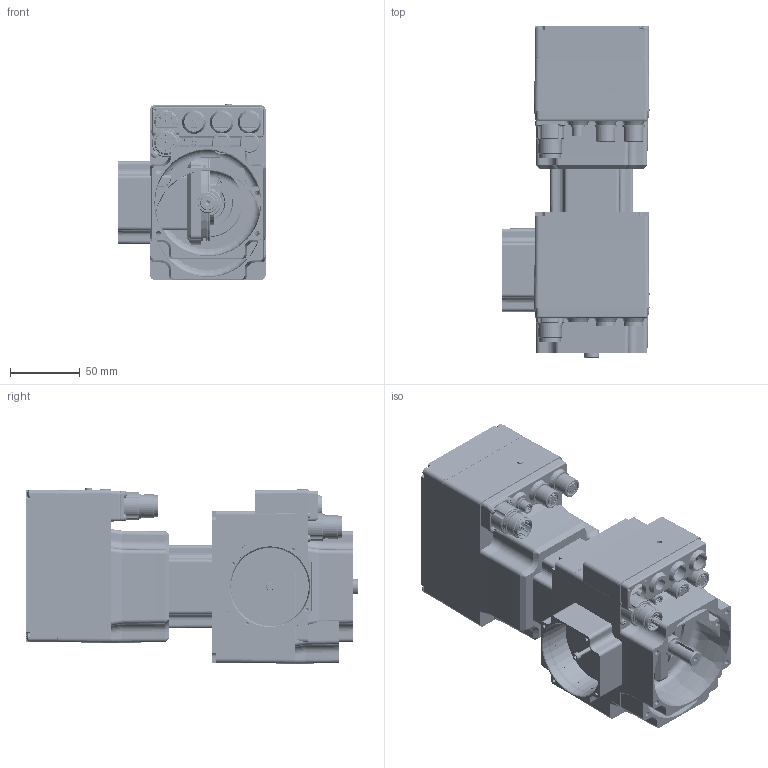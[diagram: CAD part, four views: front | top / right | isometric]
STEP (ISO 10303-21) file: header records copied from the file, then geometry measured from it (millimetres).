
FILE_DESCRIPTION( ( 'Unknown' ), '1' );
FILE_NAME( 'C:/Users/dotti/Desktop/Q0A174/Q0A174_0,65.stp', 'Unknown', ( 'Unknown' ), ( 'Unknown' ), 'PSStep 14.0', 'Unknown', ' ' );
FILE_SCHEMA( ( 'AUTOMOTIVE_DESIGN { 1 0 10303 214 1 1 1 1 }' ) );
Length unit declared in the file: millimetre
Products named in the file (44): T00272; Assem1; 005117000974; N54236; CN M23 PAN-POT BEGA 906 4+5p; VECST-8112 M  2,5 x 12; G00030_ethercat; Anello-elastico-chiuso  32; A-Ela  15; Vite a brugola testa cil 8,8 -  M  3 x 18; Vite a brugola testa cil 8,8 -  M  3 x 18-oa0; Vite a brugola testa cil 8,8 -  M  3 x 18-oa1; Vite a brugola testa cil 8,8 -  M  3 x 18-oa2; CUSC_15_32_9_6002_ZZ; CUSC_10_26_8_6000_ZZ; Vite a brugola testa cil 8,8 -  M  3 x 40; N45018; Vite a brugola testa cil 8,8 -  M  3 x 10; Anello OR 1,78 D47,37-2187-oa3; Anello OR 1,78 D47,37-2187-oa4; Anello OR 1,78 D72,75-2287-oa5; 005007000200; anello di rasamento 19_26_0,3; N35217; Anello OR 1,78 D25,12-2100-oa6; VECST-8112 M  3 x 30; 003016000054; 003251021030; LI-PIA   4x4 x 18; 003003007238; 003120002070; N54239
Bounding box: 105.75 x 238.64 x 126.21 mm (x, y, z)
Volume: 817487.6 mm3; surface area: 470514.2 mm2
Topology: 107 solids, 111 shells, 7134 faces, 19282 edges, 12609 vertices
Faces by surface type: plane 3820, cylinder 2416, cone 325, bspline 319, torus 205, sphere 49
Full cylindrical faces by diameter (mm): 1 x39, 1.5 x12, 1.6 x45, 1.7 x4, 2.4 x24, 2.459 x56, 2.5 x17, 2.7 x12, 3 x23, 3.242 x6, 3.5 x50, 4 x5, 4.2 x2, 5 x11, 5.5 x20, 6 x28, 8 x3, 8.5 x9, 8.75 x3, 9 x8, 9.98 x2, 10 x7, 11 x17, 11.9 x5, 12 x6, 14 x5, 14.3 x2, 14.4 x3, 14.5 x3, 15 x6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
Entity records: 90216 total; most frequent: CARTESIAN_POINT 24925, DIRECTION 10851, ORIENTED_EDGE 10818, EDGE_CURVE 5409, AXIS2_PLACEMENT_3D 3999, VERTEX_POINT 3716, LINE 2853, VECTOR 2853
